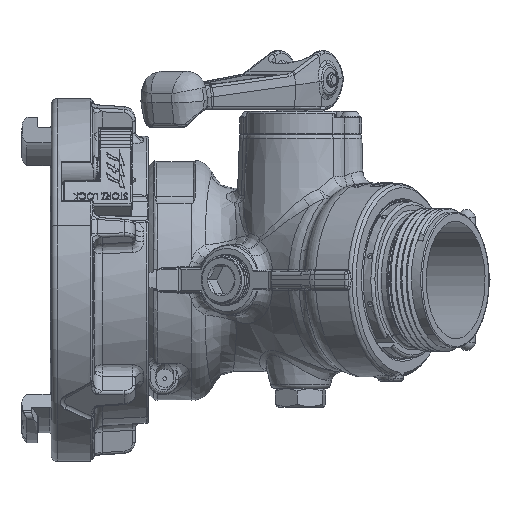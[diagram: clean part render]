
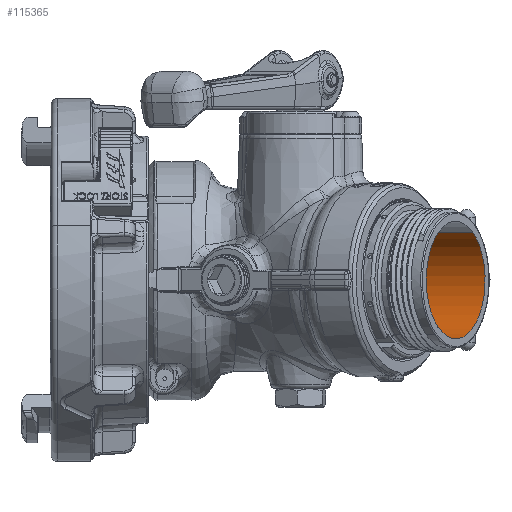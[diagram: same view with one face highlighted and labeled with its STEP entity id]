
A CAD part, front view. The second image highlights one B-rep face of the part: STEP entity #115365.
In plain terms, the highlighted cylindrical face has radius 31.75 mm (diameter 63.5 mm), a partial arc.
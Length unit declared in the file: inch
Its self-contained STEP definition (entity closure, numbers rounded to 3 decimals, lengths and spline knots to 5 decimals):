
#2364 = AXIS2_PLACEMENT_3D ( 'NONE', #129293, #129294, #129295 ) ;
#2368 = AXIS2_PLACEMENT_3D ( 'NONE', #129313, #129314, #129315 ) ;
#36500 = CARTESIAN_POINT ( 'NONE',  ( 5.43828, -2.29263, 1.01204 ) ) ;
#36504 = CARTESIAN_POINT ( 'NONE',  ( 4.70461, -3.56337, -1.01204 ) ) ;
#36512 = CARTESIAN_POINT ( 'NONE',  ( 6.56657, -4.63837, -1.01204 ) ) ;
#36529 = CARTESIAN_POINT ( 'NONE',  ( 7.30023, -3.36763, 1.01204 ) ) ;
#44526 = FACE_OUTER_BOUND ( 'NONE', #77922, .T. ) ;
#44528 = CYLINDRICAL_SURFACE ( 'NONE', #123209, 1.25 ) ;
#46354 = DIRECTION ( 'NONE',  ( -0.293, -0.508, -0.81 ) ) ;
#46356 = DIRECTION ( 'NONE',  ( -0.866, 0.5, 0. ) ) ;
#46362 = CARTESIAN_POINT ( 'NONE',  ( 6.9767, -4.028, 0. ) ) ;
#75775 = EDGE_CURVE ( 'NONE', #91094, #91089, #114215, .T. ) ;
#75779 = EDGE_CURVE ( 'NONE', #91094, #91086, #114210, .T. ) ;
#75784 = EDGE_CURVE ( 'NONE', #91087, #91086, #114214, .T. ) ;
#75788 = EDGE_CURVE ( 'NONE', #91089, #91087, #114229, .T. ) ;
#77922 = EDGE_LOOP ( 'NONE', ( #118012, #118013, #118014, #118015 ) ) ;
#91086 = VERTEX_POINT ( 'NONE', #36500 ) ;
#91087 = VERTEX_POINT ( 'NONE', #36504 ) ;
#91089 = VERTEX_POINT ( 'NONE', #36512 ) ;
#91094 = VERTEX_POINT ( 'NONE', #36529 ) ;
#114210 = LINE ( 'NONE', #129297, #114221 ) ;
#114214 = CIRCLE ( 'NONE', #2368, 1.25 ) ;
#114215 = CIRCLE ( 'NONE', #2364, 1.25 ) ;
#114221 = VECTOR ( 'NONE', #129296, 39.37008 ) ;
#114227 = VECTOR ( 'NONE', #129299, 39.37008 ) ;
#114229 = LINE ( 'NONE', #129320, #114227 ) ;
#115365 = ADVANCED_FACE ( 'NONE', ( #44526 ), #44528, .F. ) ;
#118012 = ORIENTED_EDGE ( 'NONE', *, *, #75775, .F. ) ;
#118013 = ORIENTED_EDGE ( 'NONE', *, *, #75779, .T. ) ;
#118014 = ORIENTED_EDGE ( 'NONE', *, *, #75784, .F. ) ;
#118015 = ORIENTED_EDGE ( 'NONE', *, *, #75788, .F. ) ;
#123209 = AXIS2_PLACEMENT_3D ( 'NONE', #46362, #46356, #46354 ) ;
#129293 = CARTESIAN_POINT ( 'NONE',  ( 6.9334, -4.003, 0. ) ) ;
#129294 = DIRECTION ( 'NONE',  ( -0.866, 0.5, 0. ) ) ;
#129295 = DIRECTION ( 'NONE',  ( 0.293, 0.508, 0.81 ) ) ;
#129296 = DIRECTION ( 'NONE',  ( -0.866, 0.5, 0. ) ) ;
#129297 = CARTESIAN_POINT ( 'NONE',  ( 7.34353, -3.39263, 1.01204 ) ) ;
#129299 = DIRECTION ( 'NONE',  ( -0.866, 0.5, 0. ) ) ;
#129313 = CARTESIAN_POINT ( 'NONE',  ( 5.07144, -2.928, 0. ) ) ;
#129314 = DIRECTION ( 'NONE',  ( 0.866, -0.5, 0. ) ) ;
#129315 = DIRECTION ( 'NONE',  ( -0.293, -0.508, -0.81 ) ) ;
#129320 = CARTESIAN_POINT ( 'NONE',  ( 6.60987, -4.66337, -1.01204 ) ) ;
